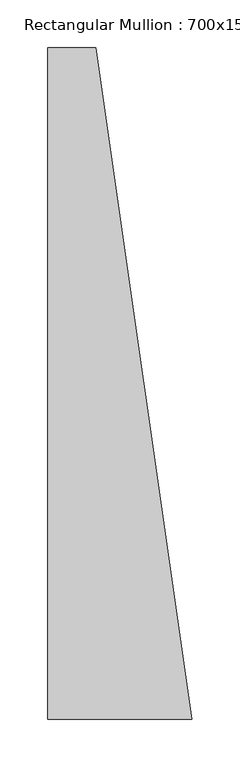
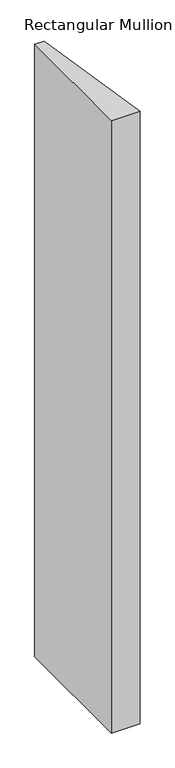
"""IFC4 building model written with IfcOpenShell, lengths in millimetres: member geometry, Rectangular Mullion : 700x150x50mm."""

import ifcopenshell
import ifcopenshell.guid

model = None  # the IFC model being written
_history = None  # IfcOwnerHistory: only IFC2X3 demands one
_inside = {}  # id of a spatial element -> (the spatial element, [elements in it])
_under = {}  # id of a project, library or spatial element -> (it, [spatial elements below it])
_declared = {}  # id of a project -> (the project, [libraries it declares])
_typed = {}  # id of a type object -> (the type object, [elements of that type])
_made_of = {}  # id of a material, layer set ... -> (it, [elements and type objects made of it])


def new_model(schema):
    """Start an empty IFC model of exactly this schema.

    Asked for "IFC4X3", IfcOpenShell would pick the latest addendum, in which some entities
    have other attributes; the version numbers below select the first issue.
    IFC2X3 requires an IfcOwnerHistory on every rooted entity: one is made here for all.
    """
    global model, _history
    if schema == "IFC4X3":
        model = ifcopenshell.file(schema_version=(4, 3, 0, 0))
    else:
        model = ifcopenshell.file(schema=schema)
    _inside.clear()
    _under.clear()
    _declared.clear()
    _typed.clear()
    _made_of.clear()
    _history = None
    if model.schema == "IFC2X3":
        org = make("IfcOrganization", Name="unknown")
        user = make(
            "IfcPersonAndOrganization",
            ThePerson=make("IfcPerson", FamilyName="unknown"),
            TheOrganization=org,
        )
        app = make(
            "IfcApplication",
            ApplicationDeveloper=org,
            Version="unknown",
            ApplicationFullName="unknown",
            ApplicationIdentifier="unknown",
        )
        _history = make(
            "IfcOwnerHistory",
            OwningUser=user,
            OwningApplication=app,
            ChangeAction="ADDED",
            CreationDate=0,
        )
    return model


def make(cls, **values):
    """One entity of the class cls with the attributes given. An attribute that is None is left unset."""
    return model.create_entity(
        cls, **{name: value for name, value in values.items() if value is not None}
    )


def rooted(cls, **values):
    """An entity with a GlobalId (a new one), such as an element, a storey or a relation."""
    return make(cls, GlobalId=ifcopenshell.guid.new(), OwnerHistory=_history, **values)


def si_unit(unit_type, name, prefix=None):
    """IfcSIUnit, for example si_unit("LENGTHUNIT", "METRE", prefix="MILLI")."""
    return make("IfcSIUnit", UnitType=unit_type, Prefix=prefix, Name=name)


def assignment(units):
    """IfcUnitAssignment: the units of a project."""
    return None if units is None else make("IfcUnitAssignment", Units=units)


def point(xyz):
    """IfcCartesianPoint."""
    return None if xyz is None else make("IfcCartesianPoint", Coordinates=xyz)


def direction(xyz):
    """IfcDirection."""
    return None if xyz is None else make("IfcDirection", DirectionRatios=xyz)


def frame(location, z_axis=None, x_axis=None):
    """IfcAxis2Placement3D, a coordinate frame: its origin and axes. An axis left out is left unset."""
    return make(
        "IfcAxis2Placement3D",
        Location=point(location),
        Axis=direction(z_axis),
        RefDirection=direction(x_axis),
    )


def origin():
    """The frame at (0, 0, 0) with its axes left unset."""
    return frame((0.0, 0.0, 0.0))


def place(relative_to, where):
    """IfcLocalPlacement: puts the frame where relative to a parent placement (None: the world)."""
    return make(
        "IfcLocalPlacement", PlacementRelTo=relative_to, RelativePlacement=where
    )


def context(
    kind, dimensions, precision=None, world=None, true_north=None, identifier=None
):
    """IfcGeometricRepresentationContext, for example the 3D "Model" context."""
    return make(
        "IfcGeometricRepresentationContext",
        ContextIdentifier=identifier,
        ContextType=kind,
        CoordinateSpaceDimension=dimensions,
        Precision=precision,
        WorldCoordinateSystem=world,
        TrueNorth=true_north,
    )


def project(units=None, contexts=None):
    """IfcProject with its units and contexts."""
    return rooted(
        "IfcProject",
        Name="project",
        RepresentationContexts=contexts,
        UnitsInContext=assignment(units),
    )


def spatial(cls, under=None, at=None, **own):
    """A site, building, storey or space (cls), placed at a placement, below another one or the project."""
    s = rooted(cls, ObjectPlacement=at, **own)
    if under is not None:
        _under.setdefault(under.id(), (under, []))[1].append(s)
    return s


def polyline(points):
    """IfcPolyline through the points."""
    return make("IfcPolyline", Points=[point(p) for p in points])


def outline(outer, holes=None, kind="AREA"):
    """IfcArbitraryClosedProfileDef: a profile drawn as a closed curve; with holes, ...WithVoids."""
    if holes is None:
        return make("IfcArbitraryClosedProfileDef", ProfileType=kind, OuterCurve=outer)
    return make(
        "IfcArbitraryProfileDefWithVoids",
        ProfileType=kind,
        OuterCurve=outer,
        InnerCurves=holes,
    )


def extrude(swept, where, along, depth):
    """IfcExtrudedAreaSolid: the profile swept, set in the frame where, extruded along a direction by depth."""
    return make(
        "IfcExtrudedAreaSolid",
        SweptArea=swept,
        Position=where,
        ExtrudedDirection=direction(along),
        Depth=depth,
    )


def shape(context_of_items, identifier, shape_type, items):
    """IfcShapeRepresentation: the items that make up one representation, for example the "Body"."""
    return make(
        "IfcShapeRepresentation",
        ContextOfItems=context_of_items,
        RepresentationIdentifier=identifier,
        RepresentationType=shape_type,
        Items=items,
    )


def source(mapping_origin, context_of_items, identifier, shape_type, items):
    """IfcRepresentationMap: a shape defined once, which mapped items show again and again."""
    return make(
        "IfcRepresentationMap",
        MappingOrigin=mapping_origin,
        MappedRepresentation=shape(context_of_items, identifier, shape_type, items),
    )


def transform(
    local_origin,
    x_axis=None,
    y_axis=None,
    z_axis=None,
    scale=None,
    scale2=None,
    scale3=None,
    uniform=True,
):
    """IfcCartesianTransformationOperator3D, or its non-uniform kind. x_axis, y_axis, z_axis: its Axis1, 2, 3."""
    if uniform:
        return make(
            "IfcCartesianTransformationOperator3D",
            Axis1=direction(x_axis),
            Axis2=direction(y_axis),
            LocalOrigin=point(local_origin),
            Scale=scale,
            Axis3=direction(z_axis),
        )
    return make(
        "IfcCartesianTransformationOperator3DnonUniform",
        Axis1=direction(x_axis),
        Axis2=direction(y_axis),
        LocalOrigin=point(local_origin),
        Scale=scale,
        Axis3=direction(z_axis),
        Scale2=scale2,
        Scale3=scale3,
    )


def mapped(mapping_source, mapping_target):
    """IfcMappedItem: shows the shape of a source again, moved by a transform."""
    return make(
        "IfcMappedItem", MappingSource=mapping_source, MappingTarget=mapping_target
    )


def made_of(thing, what):
    """Note that an element or type object is made of a material, layer set ...; save() writes the relation."""
    if what is not None:
        _made_of.setdefault(what.id(), (what, []))[1].append(thing)
    return thing


def element(
    cls,
    number,
    at=None,
    inside=None,
    cuts=None,
    type_object=None,
    material=None,
    context=None,
    identifier="Body",
    shape_type=None,
    held_by="IfcProductDefinitionShape",
    body=None,
    shapes=None,
    **own,
):
    """One element of the class cls, such as IfcWall. Its Tag is "e" and its number.

    at: its placement. inside: the storey or other place that contains it. cuts: it is an
    opening in that element (IfcRelVoidsElement). A single representation is given by context,
    identifier, shape_type and body (its items); several are given by shapes. held_by: the class
    of the entity that holds the representations. save() writes the other relations.
    """
    e = rooted(cls, Tag="e%d" % number, ObjectPlacement=at, **own)
    if body is not None:
        shapes = [shape(context, identifier, shape_type, body)]
    if shapes is not None:
        e.Representation = make(held_by, Representations=shapes)
    if inside is not None:
        _inside.setdefault(inside.id(), (inside, []))[1].append(e)
    if cuts is not None:
        rooted(
            "IfcRelVoidsElement", RelatingBuildingElement=cuts, RelatedOpeningElement=e
        )
    if type_object is not None:
        _typed.setdefault(type_object.id(), (type_object, []))[1].append(e)
    return made_of(e, material)


def aggregate(whole, parts):
    """IfcRelAggregates: a whole, such as a stair, and the parts it consists of."""
    return rooted("IfcRelAggregates", RelatingObject=whole, RelatedObjects=parts)


def save(model, path):
    """Write the relations noted so far, then the file.

    IfcRelAggregates (storeys below a building ...), IfcRelContainedInSpatialStructure (elements
    in a storey), IfcRelDefinesByType, IfcRelAssociatesMaterial and IfcRelDeclares: one each for
    every whole, place, type object, material and project.
    """
    for whole, parts in _under.values():
        aggregate(whole, parts)
    for where, things in _inside.values():
        rooted(
            "IfcRelContainedInSpatialStructure",
            RelatedElements=things,
            RelatingStructure=where,
        )
    for kind, things in _typed.values():
        rooted("IfcRelDefinesByType", RelatedObjects=things, RelatingType=kind)
    for what, things in _made_of.values():
        rooted("IfcRelAssociatesMaterial", RelatedObjects=things, RelatingMaterial=what)
    for by, libraries in _declared.values():
        rooted("IfcRelDeclares", RelatingContext=by, RelatedDefinitions=libraries)
    model.write(path)


def rectangular_mullion_700x150x50mm_146845f7(model_context):
    return source(origin(), model_context, "Body", "SweptSolid", [
        extrude(outline(polyline([(-150.0, -350.0), (-150.0, 350.0), (-100.0, 350.0), (0.0, -350.0), (-150.0, -350.0)])), frame((0.0, 0.0, -3408.3333329), z_axis=(0.0, 0.0, 1.0), x_axis=(1.0, 0.0, 0.0)), (0.0, 0.0, 1.0), 3408.3333329),
    ])


if __name__ == "__main__":
    model = new_model("IFC4")
    model_context = context("Model", 3, world=origin())
    ifc_project = project(units=[si_unit("LENGTHUNIT", "METRE", prefix="MILLI")], contexts=[model_context])
    site = spatial("IfcSite", under=ifc_project)
    building = spatial("IfcBuilding", under=site)
    placement = place(None, origin())
    rectangular_mullion_700x150x50mm_shape = rectangular_mullion_700x150x50mm_146845f7(model_context)
    element("IfcMember", 1, ObjectType="Rectangular Mullion : 700x150x50mm", at=placement, inside=building, context=model_context, shape_type="MappedRepresentation", body=[
        mapped(rectangular_mullion_700x150x50mm_shape, transform((0.0, 0.0, 0.0), x_axis=(1.0, 0.0, 0.0), y_axis=(0.0, 1.0, 0.0), z_axis=(0.0, 0.0, 1.0))),
    ])
    save(model, "model.ifc")
